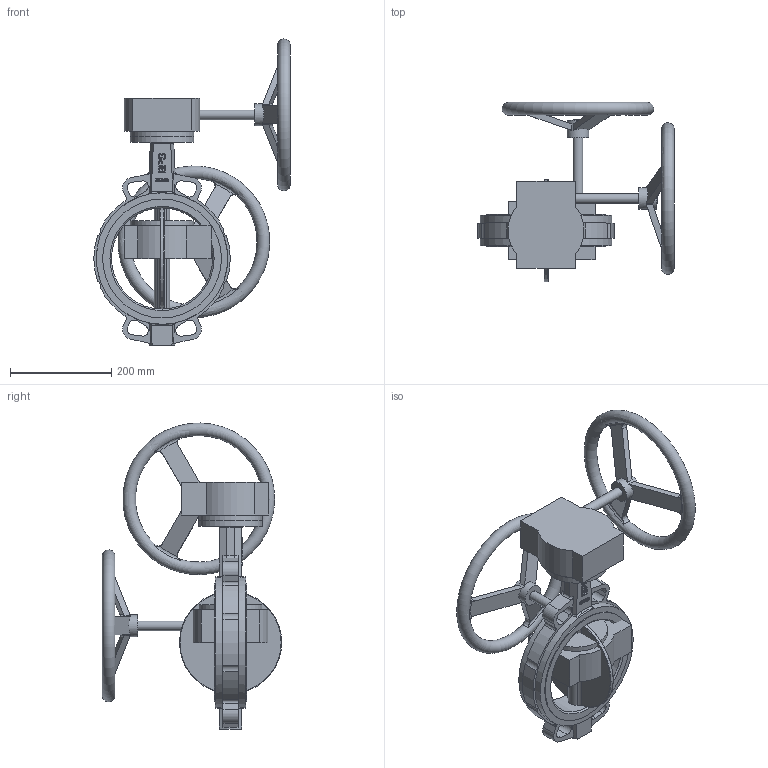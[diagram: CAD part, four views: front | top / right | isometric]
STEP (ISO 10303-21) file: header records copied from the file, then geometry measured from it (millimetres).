
FILE_DESCRIPTION( ( 'Unknown' ), '1' );
FILE_NAME( 'R:/ECCUA/ROOTSI BPS 3D vidinad/Poordklapid Wafer type/Butterfly valve(wafer) with gearbox BPS/STEP formaat/BPS 2303200VX butterfly valve DN200.stp', 'Unknown', ( 'Unknown' ), ( 'Unknown' ), 'PSStep 10.1', 'Unknown', ' ' );
FILE_SCHEMA( ( 'AUTOMOTIVE_DESIGN { 1 0 10303 214 1 1 1 1 }' ) );
Length unit declared in the file: millimetre
Products named in the file (3): Assem1; Butterfly valve wafer type DN200 BPS; Gearbox DN200 BPS
Bounding box: 388.49 x 354.49 x 604.94 mm (x, y, z)
Volume: 9133502.8 mm3; surface area: 971496.6 mm2
Topology: 4 solids, 4 shells, 496 faces, 1328 edges, 882 vertices
Faces by surface type: plane 198, cylinder 144, extrusion 82, bspline 50, torus 18, cone 4
Full cylindrical faces by diameter (mm): 11 x8, 19 x4, 43 x2, 125 x4, 200 x2, 235 x4, 260 x4
Entity records: 15433 total; most frequent: CARTESIAN_POINT 7579, ORIENTED_EDGE 1262, DIRECTION 1037, EDGE_CURVE 631, VERTEX_POINT 431, AXIS2_PLACEMENT_3D 355, VECTOR 327, EDGE_LOOP 316
